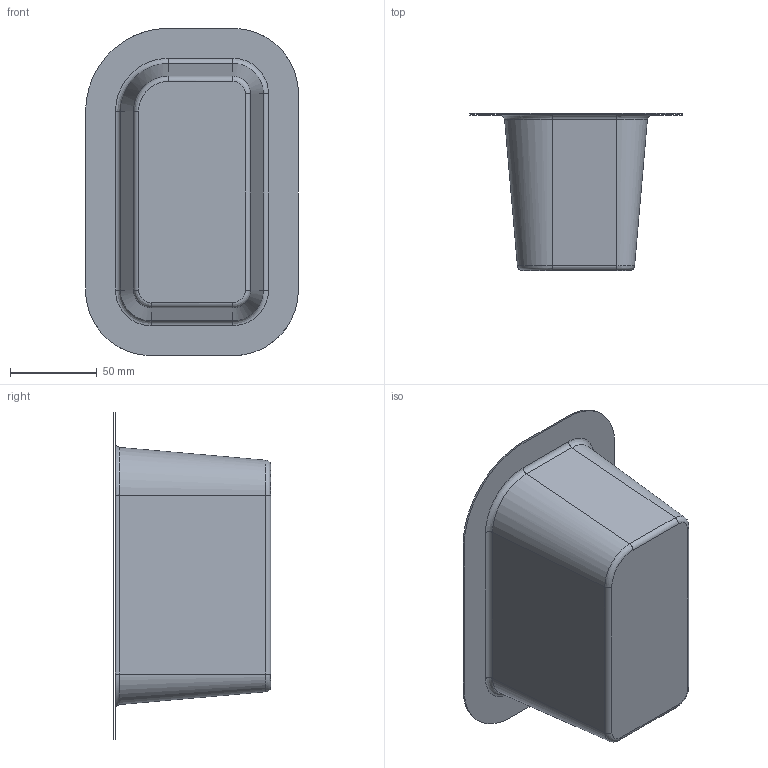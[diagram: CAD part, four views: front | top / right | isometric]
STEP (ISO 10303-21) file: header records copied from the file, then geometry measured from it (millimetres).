
FILE_DESCRIPTION(('CATIA V5 STEP Exchange'),'2;1');
FILE_NAME('C:\_Andres\UNIVERSIDAD\IQS\ASIGNATURAS\DAO\Controles\1617\c3\2inicio\Sarrió_Mercade_control3_v33.stp','2017-02-17T14:22:14+00:00',('none'),('none'),'CATIA Version 5-6 Release 2014 SP1 HF18','CATIA V5 STEP AP203','none');
FILE_SCHEMA(('CONFIG_CONTROL_DESIGN'));
Length unit declared in the file: millimetre
Products named in the file (1): Sarrió_Mercade_control3_v33
Bounding box: 122.69 x 90.66 x 188.69 mm (x, y, z)
Surface area: 75752.2 mm2 (no closed solid volume)
Topology: 0 solids, 2 shells, 27 faces, 80 edges, 57 vertices
Faces by surface type: bspline 16, cylinder 8, plane 3
Entity records: 1907 total; most frequent: CARTESIAN_POINT 1311, ORIENTED_EDGE 128, EDGE_CURVE 72, B_SPLINE_CURVE_WITH_KNOTS 54, DIRECTION 50, VERTEX_POINT 48, EDGE_LOOP 28, ADVANCED_FACE 27
